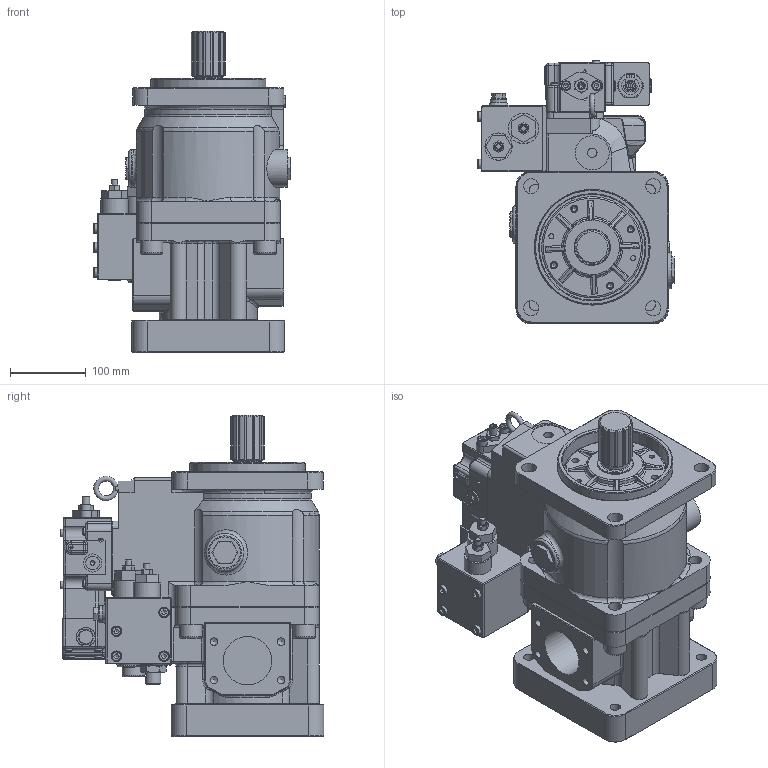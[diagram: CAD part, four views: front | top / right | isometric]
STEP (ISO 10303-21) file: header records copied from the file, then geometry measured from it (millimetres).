
FILE_DESCRIPTION((''),'2;1');
FILE_NAME('I:\3D Step files\APPROVED 3D MODELS FOR WEB\K3V\K3VL140B 1DLSM L0 1-E0.stp','2009-11-24T11:00:01',('mnorman'),(''),'Autodesk Inventor 2010','Autodesk Inventor 2010','');
FILE_SCHEMA(('AUTOMOTIVE_DESIGN { 1 0 10303 214 1 1 1 1 }'));
Length unit declared in the file: millimetre
Products named in the file (1): Part1
Bounding box: 261 x 349 x 425.5 mm (x, y, z)
Volume: 14320688.1 mm3; surface area: 803997.6 mm2
Topology: 54 solids, 55 shells, 1976 faces, 4623 edges, 2823 vertices
Faces by surface type: plane 942, cylinder 381, bspline 358, cone 235, torus 46, sphere 14
Full cylindrical faces by diameter (mm): 6 x11, 8 x9, 9 x1, 9.5 x5, 10 x11, 11 x10, 11.4 x2, 12 x4, 12.717 x1, 12.75 x1, 13 x6, 13.5 x2, 13.835 x2, 14 x1, 16 x2, 18 x5, 20 x12, 21 x1, 22 x1, 22.804 x1, 24 x1, 25 x2, 30 x5, 31 x1, 32 x2, 36 x1, 36.7 x1, 40 x1, 41 x2, 45 x1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
Entity records: 60257 total; most frequent: CARTESIAN_POINT 18494, DIRECTION 8191, ORIENTED_EDGE 7938, EDGE_CURVE 3969, AXIS2_PLACEMENT_3D 3169, VERTEX_POINT 2610, EDGE_LOOP 2545, FACE_OUTER_BOUND 1975
